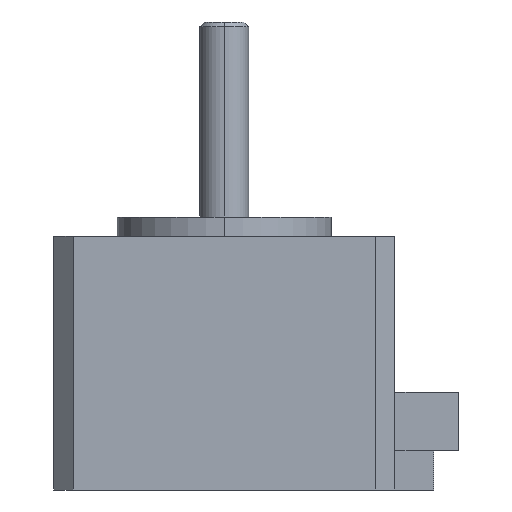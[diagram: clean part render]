
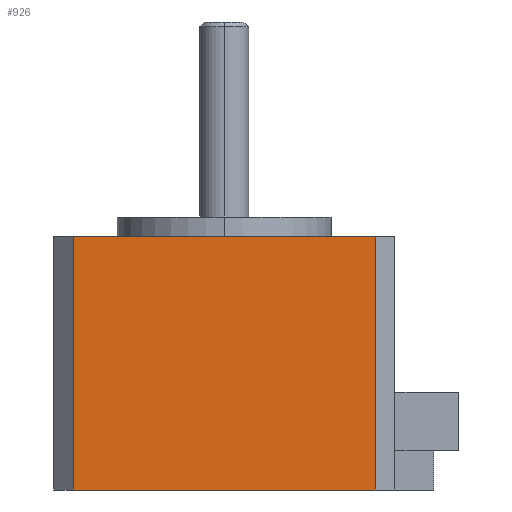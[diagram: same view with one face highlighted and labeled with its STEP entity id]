
A CAD part, left-side view. The second image highlights one B-rep face of the part: STEP entity #926.
In plain terms, the highlighted planar face has unit normal (-1, 0, 0).
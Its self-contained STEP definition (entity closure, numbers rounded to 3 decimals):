
#32 = EDGE_LOOP ( 'NONE', ( #425, #274, #832, #901 ) ) ;
#69 = CARTESIAN_POINT ( 'NONE',  ( -21.958, 31.499, 26. ) ) ;
#95 = CARTESIAN_POINT ( 'NONE',  ( -21.958, 29.499, 26. ) ) ;
#102 = VERTEX_POINT ( 'NONE', #941 ) ;
#138 = VECTOR ( 'NONE', #1074, 1000. ) ;
#159 = DIRECTION ( 'NONE',  ( 0., 0., -1. ) ) ;
#201 = EDGE_CURVE ( 'NONE', #356, #102, #1010, .T. ) ;
#234 = EDGE_CURVE ( 'NONE', #421, #102, #879, .T. ) ;
#240 = FACE_OUTER_BOUND ( 'NONE', #32, .T. ) ;
#264 = LINE ( 'NONE', #467, #138 ) ;
#274 = ORIENTED_EDGE ( 'NONE', *, *, #201, .T. ) ;
#276 = EDGE_CURVE ( 'NONE', #430, #356, #1136, .T. ) ;
#281 = CARTESIAN_POINT ( 'NONE',  ( -21.958, 29.499, 0. ) ) ;
#356 = VERTEX_POINT ( 'NONE', #527 ) ;
#414 = CARTESIAN_POINT ( 'NONE',  ( -21.958, 31.499, 26. ) ) ;
#421 = VERTEX_POINT ( 'NONE', #95 ) ;
#425 = ORIENTED_EDGE ( 'NONE', *, *, #276, .T. ) ;
#430 = VERTEX_POINT ( 'NONE', #281 ) ;
#467 = CARTESIAN_POINT ( 'NONE',  ( -21.958, 29.499, 26. ) ) ;
#503 = VECTOR ( 'NONE', #698, 1000. ) ;
#527 = CARTESIAN_POINT ( 'NONE',  ( -21.958, -1.501, 0. ) ) ;
#598 = PLANE ( 'NONE',  #1017 ) ;
#684 = VECTOR ( 'NONE', #787, 1000. ) ;
#687 = EDGE_CURVE ( 'NONE', #421, #430, #264, .T. ) ;
#698 = DIRECTION ( 'NONE',  ( 0., -1., 0. ) ) ;
#734 = CARTESIAN_POINT ( 'NONE',  ( -21.958, -1.501, 26. ) ) ;
#743 = DIRECTION ( 'NONE',  ( 0., 0., 1. ) ) ;
#787 = DIRECTION ( 'NONE',  ( 0., -1., 0. ) ) ;
#832 = ORIENTED_EDGE ( 'NONE', *, *, #234, .F. ) ;
#839 = VECTOR ( 'NONE', #743, 1000. ) ;
#879 = LINE ( 'NONE', #414, #684 ) ;
#901 = ORIENTED_EDGE ( 'NONE', *, *, #687, .T. ) ;
#926 = ADVANCED_FACE ( 'NONE', ( #240 ), #598, .F. ) ;
#941 = CARTESIAN_POINT ( 'NONE',  ( -21.958, -1.501, 26. ) ) ;
#1010 = LINE ( 'NONE', #734, #839 ) ;
#1017 = AXIS2_PLACEMENT_3D ( 'NONE', #69, #1146, #159 ) ;
#1029 = CARTESIAN_POINT ( 'NONE',  ( -21.958, 31.499, 0. ) ) ;
#1074 = DIRECTION ( 'NONE',  ( 0., 0., -1. ) ) ;
#1136 = LINE ( 'NONE', #1029, #503 ) ;
#1146 = DIRECTION ( 'NONE',  ( 1., 0., 0. ) ) ;
